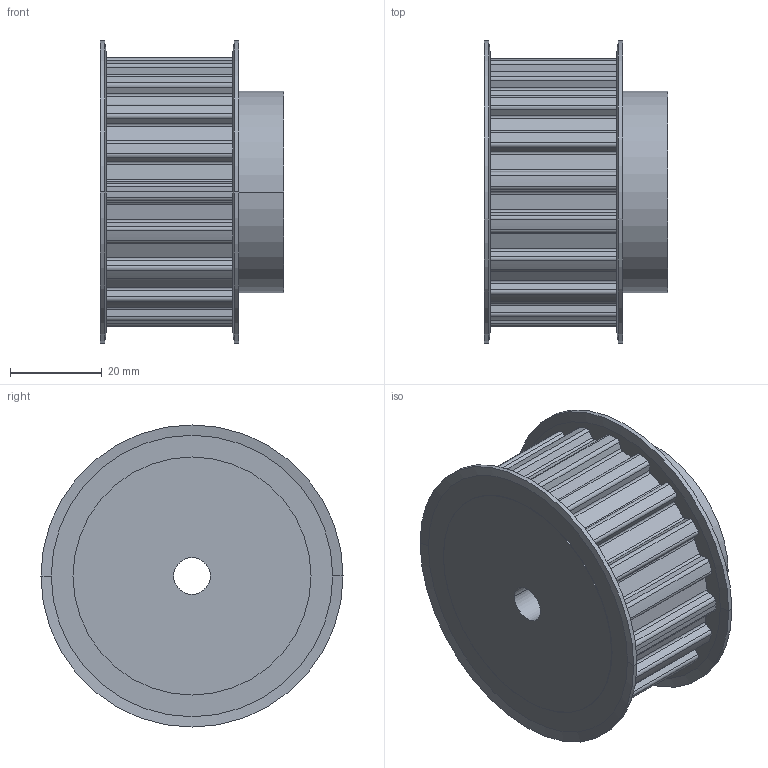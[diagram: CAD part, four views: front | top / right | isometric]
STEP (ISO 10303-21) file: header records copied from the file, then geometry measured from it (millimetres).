
FILE_DESCRIPTION( ( '' ), '1' );
FILE_NAME( 'C:/Users/Stangenbergd/Documents/CAD_Step/1/16431900.stp', '2021-10-19T08:55:17', ( '' ), ( '' ), ' ', ' ', ' ' );
FILE_SCHEMA( ( 'CONFIG_CONTROL_DESIGN' ) );
Length unit declared in the file: millimetre
Products named in the file (1): 1
Bounding box: 40.17 x 66 x 66 mm (x, y, z)
Volume: 88455.5 mm3; surface area: 18140.7 mm2
Topology: 1 solids, 1 shells, 180 faces, 511 edges, 338 vertices
Faces by surface type: cylinder 108, plane 64, cone 8
Entity records: 5983 total; most frequent: DIRECTION 1097, CARTESIAN_POINT 1030, ORIENTED_EDGE 1022, EDGE_CURVE 511, AXIS2_PLACEMENT_3D 405, VERTEX_POINT 338, LINE 287, VECTOR 287
